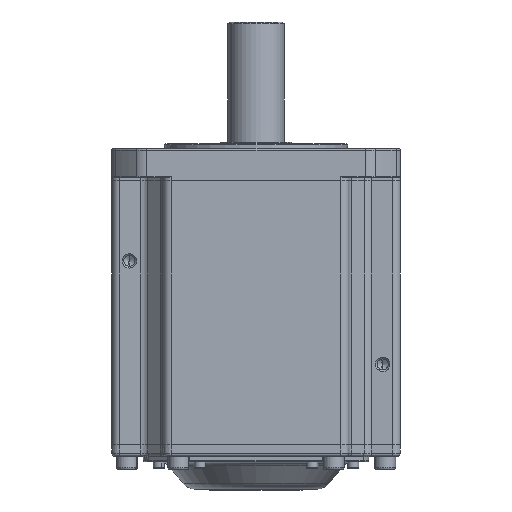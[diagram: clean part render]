
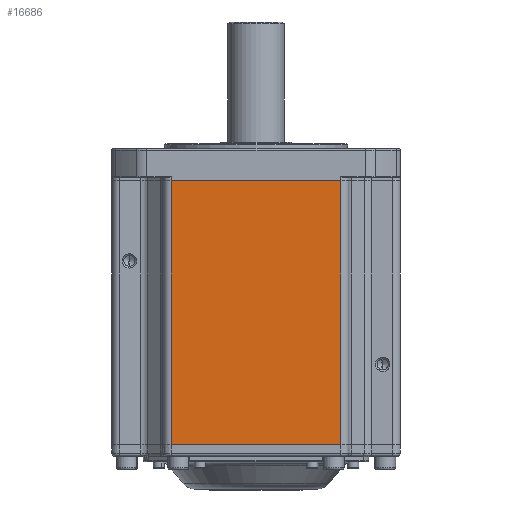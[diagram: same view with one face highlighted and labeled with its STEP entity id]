
A CAD part, front view. The second image highlights one B-rep face of the part: STEP entity #16686.
In plain terms, the highlighted planar face has unit normal (0, -1, 0).
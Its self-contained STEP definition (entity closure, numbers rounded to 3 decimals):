
#29 = LINE ( 'NONE', #56528, #28471 ) ;
#1639 = EDGE_LOOP ( 'NONE', ( #23569, #2421, #35030, #13130 ) ) ;
#2421 = ORIENTED_EDGE ( 'NONE', *, *, #9630, .T. ) ;
#3928 = DIRECTION ( 'NONE',  ( 0., 0., 1. ) ) ;
#4192 = EDGE_CURVE ( 'NONE', #15632, #56797, #9819, .T. ) ;
#7171 = CARTESIAN_POINT ( 'NONE',  ( 53.026, -89.007, -61.273 ) ) ;
#8019 = EDGE_CURVE ( 'NONE', #24827, #53539, #23385, .T. ) ;
#9630 = EDGE_CURVE ( 'NONE', #56797, #24827, #29, .T. ) ;
#9819 = LINE ( 'NONE', #46966, #60657 ) ;
#13130 = ORIENTED_EDGE ( 'NONE', *, *, #27177, .T. ) ;
#13614 = PLANE ( 'NONE',  #21330 ) ;
#15632 = VERTEX_POINT ( 'NONE', #34169 ) ;
#16001 = DIRECTION ( 'NONE',  ( -1., 0., 0. ) ) ;
#16686 = ADVANCED_FACE ( 'NONE', ( #43167 ), #13614, .F. ) ;
#16743 = LINE ( 'NONE', #25062, #54446 ) ;
#17383 = DIRECTION ( 'NONE',  ( 1., 0., 0. ) ) ;
#18591 = CARTESIAN_POINT ( 'NONE',  ( 53.026, -89.007, -896.673 ) ) ;
#21330 = AXIS2_PLACEMENT_3D ( 'NONE', #42600, #33138, #23510 ) ;
#22472 = DIRECTION ( 'NONE',  ( 0., 0., -1. ) ) ;
#23385 = LINE ( 'NONE', #18591, #34861 ) ;
#23510 = DIRECTION ( 'NONE',  ( 0., 0., -1. ) ) ;
#23569 = ORIENTED_EDGE ( 'NONE', *, *, #4192, .T. ) ;
#24827 = VERTEX_POINT ( 'NONE', #7171 ) ;
#25062 = CARTESIAN_POINT ( 'NONE',  ( 58.026, -89.007, 103.327 ) ) ;
#27177 = EDGE_CURVE ( 'NONE', #53539, #15632, #16743, .T. ) ;
#28471 = VECTOR ( 'NONE', #17383, 1000. ) ;
#31947 = CARTESIAN_POINT ( 'NONE',  ( 53.026, -89.007, 103.327 ) ) ;
#33138 = DIRECTION ( 'NONE',  ( 0., 1., 0. ) ) ;
#34169 = CARTESIAN_POINT ( 'NONE',  ( -52.974, -89.007, 103.327 ) ) ;
#34861 = VECTOR ( 'NONE', #3928, 1000. ) ;
#35030 = ORIENTED_EDGE ( 'NONE', *, *, #8019, .T. ) ;
#37784 = CARTESIAN_POINT ( 'NONE',  ( -52.974, -89.007, -61.273 ) ) ;
#42600 = CARTESIAN_POINT ( 'NONE',  ( 58.026, -89.007, -896.673 ) ) ;
#43167 = FACE_OUTER_BOUND ( 'NONE', #1639, .T. ) ;
#46966 = CARTESIAN_POINT ( 'NONE',  ( -52.974, -89.007, -896.673 ) ) ;
#53539 = VERTEX_POINT ( 'NONE', #31947 ) ;
#54446 = VECTOR ( 'NONE', #16001, 1000. ) ;
#56528 = CARTESIAN_POINT ( 'NONE',  ( -154.318, -89.007, -61.273 ) ) ;
#56797 = VERTEX_POINT ( 'NONE', #37784 ) ;
#60657 = VECTOR ( 'NONE', #22472, 1000. ) ;
